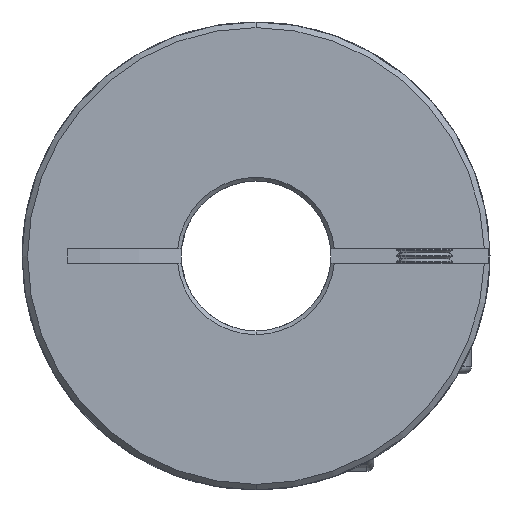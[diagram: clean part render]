
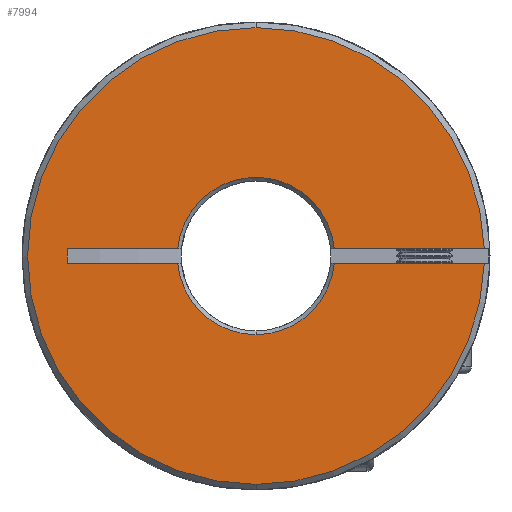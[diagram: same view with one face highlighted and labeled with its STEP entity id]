
A CAD part, front view. The second image highlights one B-rep face of the part: STEP entity #7994.
In plain terms, the highlighted planar face has unit normal (0, -1, 0).
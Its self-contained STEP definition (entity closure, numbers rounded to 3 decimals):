
#79 = LINE ( 'NONE', #8694, #4078 ) ;
#159 = VERTEX_POINT ( 'NONE', #12344 ) ;
#208 = AXIS2_PLACEMENT_3D ( 'NONE', #4767, #7312, #10127 ) ;
#323 = DIRECTION ( 'NONE',  ( 1., 0., 0. ) ) ;
#342 = DIRECTION ( 'NONE',  ( 1., 0., 0. ) ) ;
#367 = EDGE_CURVE ( 'NONE', #3198, #1703, #5842, .T. ) ;
#697 = DIRECTION ( 'NONE',  ( 0., 0., 1. ) ) ;
#752 = DIRECTION ( 'NONE',  ( 0., -1., 0. ) ) ;
#801 = DIRECTION ( 'NONE',  ( 0., 0., 1. ) ) ;
#990 = DIRECTION ( 'NONE',  ( 0., 0., 1. ) ) ;
#1622 = DIRECTION ( 'NONE',  ( 0., -1., 0. ) ) ;
#1629 = CIRCLE ( 'NONE', #3222, 24.4 ) ;
#1693 = CARTESIAN_POINT ( 'NONE',  ( -50., 0., -0.75 ) ) ;
#1703 = VERTEX_POINT ( 'NONE', #11879 ) ;
#1714 = VERTEX_POINT ( 'NONE', #9376 ) ;
#1757 = VECTOR ( 'NONE', #323, 1000. ) ;
#1913 = EDGE_LOOP ( 'NONE', ( #2039, #15252, #15004, #7604, #7696, #11411, #11609, #15682, #7445, #2683, #3799 ) ) ;
#2039 = ORIENTED_EDGE ( 'NONE', *, *, #10245, .F. ) ;
#2359 = CIRCLE ( 'NONE', #15702, 8.4 ) ;
#2683 = ORIENTED_EDGE ( 'NONE', *, *, #6348, .T. ) ;
#2977 = EDGE_CURVE ( 'NONE', #7773, #10369, #14935, .T. ) ;
#3198 = VERTEX_POINT ( 'NONE', #8720 ) ;
#3222 = AXIS2_PLACEMENT_3D ( 'NONE', #15146, #1622, #5653 ) ;
#3727 = EDGE_CURVE ( 'NONE', #10369, #12598, #6253, .T. ) ;
#3799 = ORIENTED_EDGE ( 'NONE', *, *, #14764, .T. ) ;
#3875 = DIRECTION ( 'NONE',  ( 0., 0., 1. ) ) ;
#4078 = VECTOR ( 'NONE', #15403, 1000. ) ;
#4632 = VERTEX_POINT ( 'NONE', #16933 ) ;
#4708 = CIRCLE ( 'NONE', #8301, 24.4 ) ;
#4767 = CARTESIAN_POINT ( 'NONE',  ( 0., 0., 0. ) ) ;
#4798 = AXIS2_PLACEMENT_3D ( 'NONE', #10436, #14344, #990 ) ;
#5512 = VECTOR ( 'NONE', #15437, 1000. ) ;
#5653 = DIRECTION ( 'NONE',  ( 0., 0., 1. ) ) ;
#5842 = CIRCLE ( 'NONE', #208, 8.4 ) ;
#6065 = VERTEX_POINT ( 'NONE', #13615 ) ;
#6253 = LINE ( 'NONE', #13882, #10073 ) ;
#6325 = CARTESIAN_POINT ( 'NONE',  ( 8.366, 0., -0.75 ) ) ;
#6348 = EDGE_CURVE ( 'NONE', #4632, #7173, #4708, .T. ) ;
#6547 = FACE_OUTER_BOUND ( 'NONE', #1913, .T. ) ;
#6572 = DIRECTION ( 'NONE',  ( 0., 0., 1. ) ) ;
#6596 = AXIS2_PLACEMENT_3D ( 'NONE', #8815, #752, #697 ) ;
#7173 = VERTEX_POINT ( 'NONE', #16828 ) ;
#7312 = DIRECTION ( 'NONE',  ( 0., 1., 0. ) ) ;
#7443 = DIRECTION ( 'NONE',  ( 0., 1., 0. ) ) ;
#7445 = ORIENTED_EDGE ( 'NONE', *, *, #7917, .T. ) ;
#7503 = CARTESIAN_POINT ( 'NONE',  ( 0., 0., 0. ) ) ;
#7559 = CARTESIAN_POINT ( 'NONE',  ( 8.366, 0., 0.75 ) ) ;
#7604 = ORIENTED_EDGE ( 'NONE', *, *, #14149, .F. ) ;
#7696 = ORIENTED_EDGE ( 'NONE', *, *, #10861, .T. ) ;
#7773 = VERTEX_POINT ( 'NONE', #10812 ) ;
#7820 = CARTESIAN_POINT ( 'NONE',  ( 0., 0., 0. ) ) ;
#7917 = EDGE_CURVE ( 'NONE', #12598, #4632, #10996, .T. ) ;
#7994 = ADVANCED_FACE ( 'NONE', ( #6547 ), #11886, .F. ) ;
#8301 = AXIS2_PLACEMENT_3D ( 'NONE', #17062, #9064, #3875 ) ;
#8694 = CARTESIAN_POINT ( 'NONE',  ( -50., 0., -0.75 ) ) ;
#8720 = CARTESIAN_POINT ( 'NONE',  ( 0., 0., -8.4 ) ) ;
#8815 = CARTESIAN_POINT ( 'NONE',  ( 0., 0., 0. ) ) ;
#9064 = DIRECTION ( 'NONE',  ( 0., -1., 0. ) ) ;
#9376 = CARTESIAN_POINT ( 'NONE',  ( -20.149, 0., -0.75 ) ) ;
#9634 = LINE ( 'NONE', #1693, #15954 ) ;
#9987 = VERTEX_POINT ( 'NONE', #6325 ) ;
#10073 = VECTOR ( 'NONE', #12648, 1000. ) ;
#10076 = CARTESIAN_POINT ( 'NONE',  ( -20.149, 0., -0.75 ) ) ;
#10127 = DIRECTION ( 'NONE',  ( 0., 0., 1. ) ) ;
#10245 = EDGE_CURVE ( 'NONE', #9987, #159, #79, .T. ) ;
#10257 = CARTESIAN_POINT ( 'NONE',  ( 24.388, 0., 0.75 ) ) ;
#10369 = VERTEX_POINT ( 'NONE', #7559 ) ;
#10436 = CARTESIAN_POINT ( 'NONE',  ( -50., 0., 32.858 ) ) ;
#10753 = EDGE_CURVE ( 'NONE', #6065, #7773, #14384, .T. ) ;
#10812 = CARTESIAN_POINT ( 'NONE',  ( -8.366, 0., 0.75 ) ) ;
#10861 = EDGE_CURVE ( 'NONE', #1714, #6065, #16057, .T. ) ;
#10996 = CIRCLE ( 'NONE', #6596, 24.4 ) ;
#11411 = ORIENTED_EDGE ( 'NONE', *, *, #10753, .T. ) ;
#11609 = ORIENTED_EDGE ( 'NONE', *, *, #2977, .T. ) ;
#11690 = EDGE_CURVE ( 'NONE', #9987, #3198, #2359, .T. ) ;
#11879 = CARTESIAN_POINT ( 'NONE',  ( -8.366, 0., -0.75 ) ) ;
#11886 = PLANE ( 'NONE',  #4798 ) ;
#12212 = AXIS2_PLACEMENT_3D ( 'NONE', #7503, #7443, #801 ) ;
#12344 = CARTESIAN_POINT ( 'NONE',  ( 24.388, 0., -0.75 ) ) ;
#12598 = VERTEX_POINT ( 'NONE', #10257 ) ;
#12648 = DIRECTION ( 'NONE',  ( 1., 0., 0. ) ) ;
#13615 = CARTESIAN_POINT ( 'NONE',  ( -20.149, 0., 0.75 ) ) ;
#13882 = CARTESIAN_POINT ( 'NONE',  ( -50., 0., 0.75 ) ) ;
#14149 = EDGE_CURVE ( 'NONE', #1714, #1703, #9634, .T. ) ;
#14344 = DIRECTION ( 'NONE',  ( 0., 1., 0. ) ) ;
#14384 = LINE ( 'NONE', #16552, #1757 ) ;
#14764 = EDGE_CURVE ( 'NONE', #7173, #159, #1629, .T. ) ;
#14935 = CIRCLE ( 'NONE', #12212, 8.4 ) ;
#15004 = ORIENTED_EDGE ( 'NONE', *, *, #367, .T. ) ;
#15146 = CARTESIAN_POINT ( 'NONE',  ( 0., 0., 0. ) ) ;
#15252 = ORIENTED_EDGE ( 'NONE', *, *, #11690, .T. ) ;
#15403 = DIRECTION ( 'NONE',  ( 1., 0., 0. ) ) ;
#15437 = DIRECTION ( 'NONE',  ( 0., 0., 1. ) ) ;
#15682 = ORIENTED_EDGE ( 'NONE', *, *, #3727, .T. ) ;
#15702 = AXIS2_PLACEMENT_3D ( 'NONE', #7820, #16001, #6572 ) ;
#15954 = VECTOR ( 'NONE', #342, 1000. ) ;
#16001 = DIRECTION ( 'NONE',  ( 0., 1., 0. ) ) ;
#16057 = LINE ( 'NONE', #10076, #5512 ) ;
#16552 = CARTESIAN_POINT ( 'NONE',  ( -50., 0., 0.75 ) ) ;
#16828 = CARTESIAN_POINT ( 'NONE',  ( 0., 0., -24.4 ) ) ;
#16933 = CARTESIAN_POINT ( 'NONE',  ( 0., 0., 24.4 ) ) ;
#17062 = CARTESIAN_POINT ( 'NONE',  ( 0., 0., 0. ) ) ;
